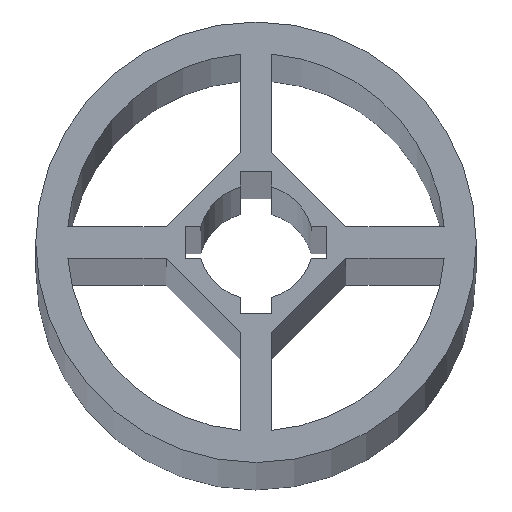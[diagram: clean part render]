
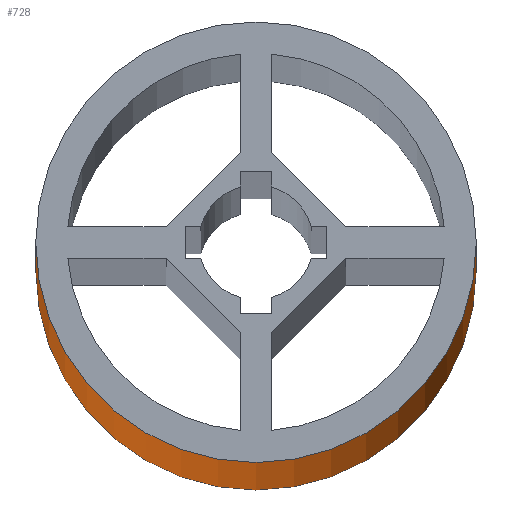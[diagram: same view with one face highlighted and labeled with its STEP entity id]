
A CAD part, top view. The second image highlights one B-rep face of the part: STEP entity #728.
In plain terms, the highlighted cylindrical face has radius 14 mm (diameter 28 mm), a partial arc.
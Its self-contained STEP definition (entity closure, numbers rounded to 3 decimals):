
#12 = DIRECTION ( 'NONE',  ( 0., 0., 1. ) ) ;
#53 = DIRECTION ( 'NONE',  ( -1., 0., 0. ) ) ;
#69 = CARTESIAN_POINT ( 'NONE',  ( 14., 0., 1000. ) ) ;
#72 = VECTOR ( 'NONE', #342, 1000. ) ;
#78 = LINE ( 'NONE', #452, #287 ) ;
#96 = ORIENTED_EDGE ( 'NONE', *, *, #512, .F. ) ;
#159 = DIRECTION ( 'NONE',  ( 0., 0., -1. ) ) ;
#168 = CIRCLE ( 'NONE', #1166, 14. ) ;
#183 = DIRECTION ( 'NONE',  ( 1., 0., 0. ) ) ;
#213 = EDGE_LOOP ( 'NONE', ( #96, #761, #840, #391 ) ) ;
#214 = AXIS2_PLACEMENT_3D ( 'NONE', #896, #159, #53 ) ;
#287 = VECTOR ( 'NONE', #830, 1000. ) ;
#342 = DIRECTION ( 'NONE',  ( 0., 0., -1. ) ) ;
#344 = AXIS2_PLACEMENT_3D ( 'NONE', #1120, #12, #183 ) ;
#352 = VERTEX_POINT ( 'NONE', #622 ) ;
#391 = ORIENTED_EDGE ( 'NONE', *, *, #801, .T. ) ;
#452 = CARTESIAN_POINT ( 'NONE',  ( -14., 0., 1000. ) ) ;
#453 = CARTESIAN_POINT ( 'NONE',  ( -14., 0., 0. ) ) ;
#498 = VERTEX_POINT ( 'NONE', #453 ) ;
#512 = EDGE_CURVE ( 'NONE', #660, #945, #1178, .T. ) ;
#615 = FACE_OUTER_BOUND ( 'NONE', #213, .T. ) ;
#622 = CARTESIAN_POINT ( 'NONE',  ( -14., 0., 1000. ) ) ;
#636 = CARTESIAN_POINT ( 'NONE',  ( 14., 0., 1000. ) ) ;
#660 = VERTEX_POINT ( 'NONE', #69 ) ;
#675 = EDGE_CURVE ( 'NONE', #352, #660, #168, .T. ) ;
#708 = EDGE_CURVE ( 'NONE', #352, #498, #78, .T. ) ;
#728 = ADVANCED_FACE ( 'NONE', ( #615 ), #729, .T. ) ;
#729 = CYLINDRICAL_SURFACE ( 'NONE', #214, 14. ) ;
#736 = DIRECTION ( 'NONE',  ( 1., 0., 0. ) ) ;
#761 = ORIENTED_EDGE ( 'NONE', *, *, #675, .F. ) ;
#790 = CIRCLE ( 'NONE', #344, 14. ) ;
#801 = EDGE_CURVE ( 'NONE', #498, #945, #790, .T. ) ;
#830 = DIRECTION ( 'NONE',  ( 0., 0., -1. ) ) ;
#840 = ORIENTED_EDGE ( 'NONE', *, *, #708, .T. ) ;
#896 = CARTESIAN_POINT ( 'NONE',  ( 0., 0., 1000. ) ) ;
#945 = VERTEX_POINT ( 'NONE', #955 ) ;
#955 = CARTESIAN_POINT ( 'NONE',  ( 14., 0., 0. ) ) ;
#1092 = CARTESIAN_POINT ( 'NONE',  ( 0., 0., 1000. ) ) ;
#1120 = CARTESIAN_POINT ( 'NONE',  ( 0., 0., 0. ) ) ;
#1166 = AXIS2_PLACEMENT_3D ( 'NONE', #1092, #1193, #736 ) ;
#1178 = LINE ( 'NONE', #636, #72 ) ;
#1193 = DIRECTION ( 'NONE',  ( 0., 0., 1. ) ) ;
